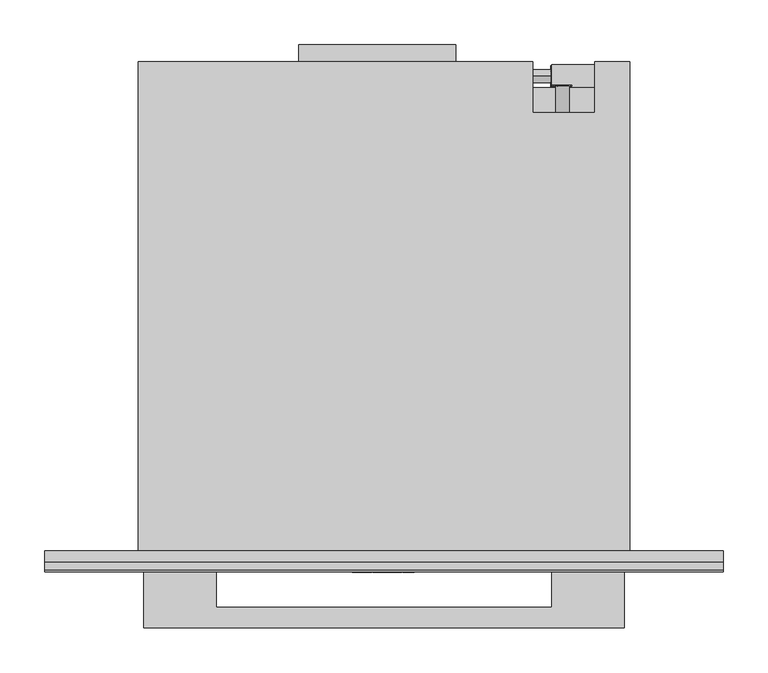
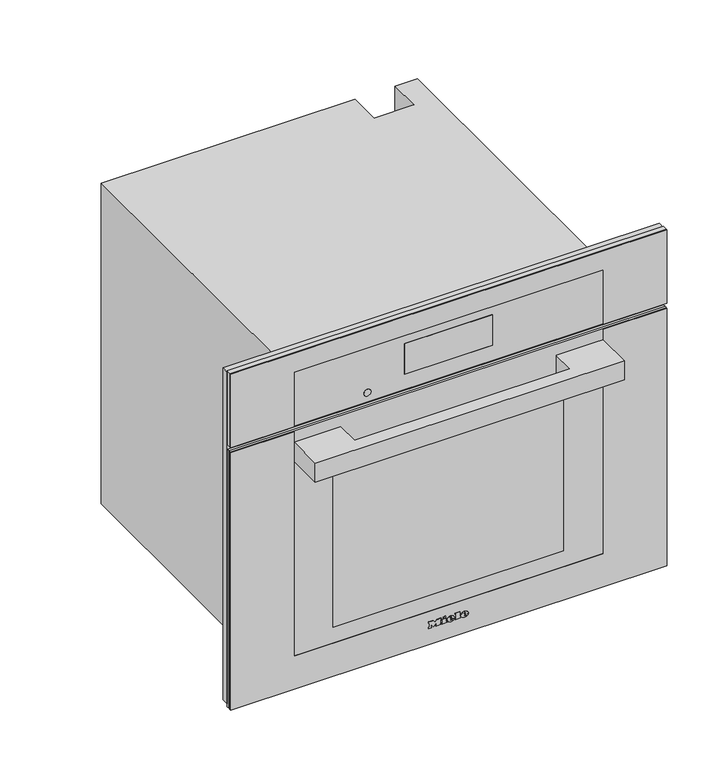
"""IFC4 building model written with IfcOpenShell, lengths in millimetres: proxy geometry, 11875810_USA_DGC7785_EDST-CLST : 23778543_USA_11875810_DGC7785_EDST-CLST."""

from ifc_helpers import new_model, si_unit, point, frame, frame_2d, origin, place, context, project, spatial, polyline, circle_curve, ellipse_curve, trimmed, segment, composite_curve, outline, extrude, faceted_brep, source, transform, mapped, element, save
from ifc_brep_helpers import plane_surface, cylinder_surface, revolved_surface, extruded_surface, advanced_brep


def specialty_equipment_a7eebdfc(model_context):
    return source(origin(), model_context, "Body", "SolidModel", [
        faceted_brep([(378.5, -13.0, 617.0), (-378.5, -13.0, 617.0), (-378.5, -13.0, 9.0), (-272.5, -13.0, 9.0), (-272.5, -13.0, 485.0), (272.5, -13.0, 485.0), (272.5, -13.0, 9.0), (378.5, -13.0, 9.0), (378.5, 0.0, 617.0), (378.5, 0.0, 9.0), (-378.5, 0.0, 9.0), (-378.5, 0.0, 617.0), (231.0, 0.0, 61.0), (231.0, 0.0, 411.0), (-231.0, 0.0, 411.0), (-231.0, 0.0, 61.0), (272.5, -5.0, 9.0), (-272.5, -5.0, 9.0), (-272.5, -5.0, 485.0), (272.5, -5.0, 485.0), (231.0, -5.0, 411.0), (231.0, -5.0, 61.0), (-231.0, -5.0, 61.0), (-231.0, -5.0, 411.0)], [[[0, 1, 2, 3, 4, 5, 6, 7]], [[8, 9, 10, 11], [12, 13, 14, 15]], [[1, 0, 8, 11]], [[2, 1, 11, 10]], [[10, 9, 7, 6, 16, 17, 3, 2]], [[0, 7, 9, 8]], [[18, 19, 5, 4]], [[18, 4, 3, 17]], [[5, 19, 16, 6]], [[19, 18, 17, 16], [20, 21, 22, 23]], [[20, 13, 12, 21]], [[21, 12, 15, 22]], [[22, 15, 14, 23]], [[13, 20, 23, 14]]]),
        extrude(outline(polyline([(-95.0, 565.0), (80.0, 565.0), (80.0, 546.0), (-95.0, 546.0), (-95.0, 565.0)])), frame((0.0, 0.0, 311.0), z_axis=(0.0, 0.0, 1.0), x_axis=(1.0, 0.0, 0.0)), (0.0, 0.0, 1.0), 1.0),
        extrude(outline(polyline([(218.8383288, 522.0), (225.1236409, 522.0), (225.1236409, 511.9492425), (223.8571792, 511.9492425), (223.8571792, 520.7409796), (218.8383288, 520.7409796), (218.8383288, 522.0)])), frame((0.0, 0.0, 272.0), z_axis=(0.0, 0.0, 1.0), x_axis=(1.0, 0.0, 0.0)), (0.0, 0.0, 1.0), 1.0),
        extrude(outline(polyline([(227.0, 522.0), (234.3797826, 522.0), (234.3797826, 511.9503529), (227.15422, 511.9503529), (227.15422, 513.220938), (233.1355215, 513.220938), (233.1355215, 516.1975645), (227.4863097, 516.1975645), (227.4863097, 517.449242), (233.1355215, 517.449242), (233.1355215, 520.7448633), (227.0, 520.7448633), (227.0, 522.0)])), frame((0.0, 0.0, 272.0), z_axis=(0.0, 0.0, 1.0), x_axis=(1.0, 0.0, 0.0)), (0.0, 0.0, 1.0), 1.0),
        extrude(outline(polyline([(519.6429442, 19.9943805), (518.3113439, 19.9943805), (522.3179353, 30.0448542), (523.3959224, 30.0448542), (527.4062166, 20.0), (526.0536081, 20.0), (524.9175759, 23.121223), (520.7810217, 23.121223), (519.6429442, 19.9943805)]), holes=[polyline([(521.2587176, 24.4336815), (524.43988, 24.4336815), (522.8492988, 28.8037675), (521.2587176, 24.4336815)])]), frame((186.0, 0.0, 0.0), z_axis=(1.0, 0.0, 0.0), x_axis=(0.0, 1.0, 0.0)), (0.0, 0.0, 1.0), 1.0),
        extrude(outline(polyline([(530.5321321, 20.0), (527.8018067, 30.0490432), (529.0968223, 30.0490432), (531.1602937, 21.4201336), (533.686646, 30.0556718), (535.5455392, 30.0556718), (538.1024658, 21.4662572), (540.1658975, 30.0556718), (541.4634812, 30.0556718), (538.7128319, 20.0), (537.3799359, 20.0), (534.6350025, 28.8403806), (532.048723, 20.0), (530.5321321, 20.0)])), frame((186.0, 0.0, 0.0), z_axis=(1.0, 0.0, 0.0), x_axis=(0.0, 1.0, 0.0)), (0.0, 0.0, 1.0), 1.0),
        extrude(outline(composite_curve([segment(trimmed(circle_curve(frame_2d((227.0, 517.0)), 7.5), [point((219.5, 517.0))], [point((234.5, 517.0))], False, "CARTESIAN"), True, "CONTINUOUS"), segment(trimmed(circle_curve(frame_2d((227.0, 517.0)), 7.5), [point((234.5, 517.0))], [point((219.5, 517.0))], False, "CARTESIAN"), True, "CONTINUOUS")], self_intersect=False)), frame((0.0, 0.0, 273.0), z_axis=(0.0, 0.0, 1.0), x_axis=(1.0, 0.0, 0.0)), (0.0, 0.0, 1.0), 30.0),
        extrude(outline(polyline([(266.0, 517.0), (187.0, 517.0), (187.0, 543.0), (266.0, 543.0), (266.0, 517.0)])), frame((0.0, 0.0, 303.0), z_axis=(0.0, 0.0, 1.0), x_axis=(1.0, 0.0, 0.0)), (0.0, 0.0, 1.0), 111.0),
        extrude(outline(polyline([(523.0, 196.9217896), (523.0, 198.4267862), (533.0435673, 201.1942402), (533.0435673, 199.9014806), (524.4295103, 197.7797951), (533.0470645, 195.3087512), (533.0470645, 193.4373937), (524.4121052, 190.9191482), (533.0472266, 188.8443938), (533.0472266, 187.5376524), (523.0, 190.2769667), (523.0, 191.6257455), (531.8347238, 194.3884733), (523.0, 196.9217896)])), frame((0.0, 519.0, 0.0), z_axis=(0.0, 1.0, 0.0), x_axis=(0.0, 0.0, 1.0)), (0.0, 0.0, 1.0), 1.0),
        extrude(outline(polyline([(533.0468463, 209.521488), (533.0468463, 208.2566067), (528.129594, 208.2566067), (533.0474898, 203.1074328), (533.0474898, 201.3597489), (528.9313111, 205.6695027), (523.0, 201.1858157), (523.0, 202.7358731), (528.0700777, 206.5685235), (526.4282746, 208.2823622), (523.0, 208.2823622), (523.0, 209.521488), (533.0468463, 209.521488)])), frame((0.0, 519.0, 0.0), z_axis=(0.0, 1.0, 0.0), x_axis=(0.0, 0.0, 1.0)), (0.0, 0.0, 1.0), 1.0),
        extrude(outline(composite_curve([segment(trimmed(circle_curve(frame_2d((528.0, 199.0)), 7.5), [point((528.0, 206.5))], [point((528.0, 191.5))], False, "CARTESIAN"), True, "CONTINUOUS"), segment(trimmed(circle_curve(frame_2d((528.0, 199.0)), 7.5), [point((528.0, 191.5))], [point((528.0, 206.5))], False, "CARTESIAN"), True, "CONTINUOUS")], self_intersect=False)), frame((0.0, 489.0, 0.0), z_axis=(0.0, 1.0, 0.0), x_axis=(0.0, 0.0, 1.0)), (0.0, 0.0, 1.0), 30.0),
        extrude(outline(composite_curve([segment(trimmed(circle_curve(frame_2d((530.0, 25.0)), 7.5), [point((530.0, 17.5))], [point((530.0, 32.5))], False, "CARTESIAN"), True, "CONTINUOUS"), segment(trimmed(circle_curve(frame_2d((530.0, 25.0)), 7.5), [point((530.0, 32.5))], [point((530.0, 17.5))], False, "CARTESIAN"), True, "CONTINUOUS")], self_intersect=False)), frame((166.0, 0.0, 0.0), z_axis=(1.0, 0.0, 0.0), x_axis=(0.0, 1.0, 0.0)), (0.0, 0.0, 1.0), 20.0),
        faceted_brep([(-274.0, 546.0, 0.0), (-274.0, 546.0, 588.0), (166.0, 546.0, 588.0), (166.0, 546.0, 0.0), (235.0, 546.0, 588.0), (274.0, 546.0, 588.0), (274.0, 546.0, 478.0), (235.0, 546.0, 478.0), (274.0, 0.0, 588.0), (-274.0, 0.0, 588.0), (-274.0, 0.0, 0.0), (274.0, 0.0, 0.0), (231.0, 0.0, 411.0), (231.0, 0.0, 61.0), (-231.0, 0.0, 61.0), (-231.0, 0.0, 411.0), (235.0, 489.0, 588.0), (166.0, 489.0, 588.0), (166.0, 517.0, 0.0), (274.0, 517.0, 0.0), (274.0, 517.0, 478.0), (231.0, 411.0, 411.0), (-231.0, 411.0, 411.0), (-231.0, 411.0, 61.0), (231.0, 411.0, 61.0), (235.0, 489.0, 477.0), (166.0, 489.0, 477.0), (166.0, 517.0, 477.0), (235.0, 517.0, 477.0), (235.0, 517.0, 478.0)], [[[0, 1, 2, 3]], [[4, 5, 6, 7]], [[8, 9, 10, 11], [12, 13, 14, 15]], [[9, 8, 5, 4, 16, 17, 2, 1]], [[1, 0, 10, 9]], [[11, 10, 0, 3, 18, 19]], [[8, 11, 19, 20, 6, 5]], [[21, 22, 23, 24]], [[21, 24, 13, 12]], [[24, 23, 14, 13]], [[23, 22, 15, 14]], [[22, 21, 12, 15]], [[16, 25, 26, 17]], [[17, 26, 27, 18, 3, 2]], [[26, 25, 28, 27]], [[25, 16, 4, 7, 29, 28]], [[29, 20, 19, 18, 27, 28]], [[20, 29, 7, 6]]]),
        advanced_brep(
        [(26.2998, -24.3, 36.7018), (26.2998, -24.3, 37.8532), (33.9264, -24.3, 37.8532), (20.6568, -24.3, 37.8532), (23.7918, -24.3, 34.0), (33.7326, -24.3, 36.7018), (30.2898, -24.3, 36.7018), (27.5766, -24.3, 35.425), (26.2998, -24.3, 39.3124), (26.2998, -24.3, 40.555), (28.2492, -24.3, 40.555), (28.2492, -24.3, 39.3124), (26.2998, -23.3, 36.7018), (27.5766, -23.3, 35.425), (30.2898, -23.3, 36.7018), (33.7326, -23.3, 36.7018), (23.7918, -23.3, 34.0), (20.6568, -23.3, 37.8532), (33.9264, -23.3, 37.8532), (26.2998, -23.3, 37.8532), (26.2998, -23.3, 39.3124), (28.2492, -23.3, 39.3124), (28.2492, -23.3, 40.555), (26.2998, -23.3, 40.555)],
        [
            (0, 1),
            (1, 2),
            (2, 3, ellipse_curve(frame((27.2916, -24.3, 37.8532), z_axis=(0.0, -1.0, 0.0), x_axis=(-1.0, 0.0, 0.0)), 6.6348, 5.4834)),
            (3, 4, circle_curve(frame((25.0686622, -24.3, 38.2408), z_axis=(0.0, -1.0, 0.0), x_axis=(0.0, 0.0, -1.0)), 4.4288556)),
            (4, 5, circle_curve(frame((27.1587808, -24.3, 41.2504), z_axis=(0.0, -1.0, 0.0), x_axis=(0.0, 0.0, -1.0)), 7.9940516)),
            (5, 6),
            (6, 7, circle_curve(frame((28.1338588, -24.3, 37.762), z_axis=(0.0, 1.0, 0.0), x_axis=(0.0, 0.0, -1.0)), 2.4025208)),
            (7, 0, circle_curve(frame((27.5766, -24.3, 36.7018), z_axis=(0.0, 1.0, 0.0), x_axis=(0.0, 0.0, -1.0)), 1.2768)),
            (8, 9),
            (9, 10, circle_curve(frame((27.2745, -24.3, 40.555), z_axis=(0.0, 1.0, 0.0), x_axis=(0.0, 0.0, -1.0)), 0.9747)),
            (10, 11),
            (11, 8),
            (12, 13, circle_curve(frame((27.5766, -23.3, 36.7018), z_axis=(0.0, -1.0, 0.0), x_axis=(0.0, 0.0, -1.0)), 1.2768)),
            (13, 14, circle_curve(frame((28.1338588, -23.3, 37.762), z_axis=(0.0, -1.0, 0.0), x_axis=(0.0, 0.0, -1.0)), 2.4025208)),
            (14, 15),
            (15, 16, circle_curve(frame((27.1587808, -23.3, 41.2504), z_axis=(0.0, 1.0, 0.0), x_axis=(0.0, 0.0, -1.0)), 7.9940516)),
            (16, 17, circle_curve(frame((25.0686622, -23.3, 38.2408), z_axis=(0.0, 1.0, 0.0), x_axis=(0.0, 0.0, -1.0)), 4.4288556)),
            (17, 18, ellipse_curve(frame((27.2916, -23.3, 37.8532), z_axis=(0.0, 1.0, 0.0), x_axis=(-1.0, 0.0, 0.0)), 6.6348, 5.4834)),
            (18, 19),
            (19, 12),
            (20, 21),
            (21, 22),
            (22, 23, circle_curve(frame((27.2745, -23.3, 40.555), z_axis=(0.0, -1.0, 0.0), x_axis=(0.0, 0.0, -1.0)), 0.9747)),
            (23, 20),
            (0, 12),
            (19, 1),
            (18, 2),
            (5, 15),
            (14, 6),
            (17, 3),
            (13, 7),
            (16, 4),
            (8, 20),
            (23, 9),
            (22, 10),
            (21, 11),
        ],
        [
            plane_surface(frame((26.2998, -24.3, 37.8532), z_axis=(0.0, -1.0, 0.0), x_axis=(0.0, 0.0, 1.0))),
            plane_surface(frame((26.2998, -23.3, 37.8532), z_axis=(0.0, 1.0, 0.0), x_axis=(0.0, 0.0, -1.0))),
            plane_surface(frame((26.2998, -24.3, 36.7018), z_axis=(1.0, 0.0, 0.0), x_axis=(0.0, 1.0, 0.0))),
            plane_surface(frame((26.2998, -24.3, 37.8532), z_axis=(0.0, 0.0, -1.0), x_axis=(0.0, 1.0, 0.0))),
            plane_surface(frame((33.7326, -24.3, 36.7018), z_axis=(0.0, 0.0, 1.0), x_axis=(0.0, 1.0, 0.0))),
            extruded_surface(trimmed(ellipse_curve(frame((27.2916, -22.3, 37.8532), z_axis=(0.0, -1.0, 0.0), x_axis=(-1.0, 0.0, 0.0)), 6.6348, 5.4834), [point((33.9264, -22.3, 37.8532))], [point((20.6568, -22.3, 37.8532))], True, "CARTESIAN"), (0.0, -1.0, 0.0), 1.0),
            revolved_surface(polyline([(28.1338588, -23.3, 35.3594792), (28.1338588, -24.3, 35.3594792)]), (28.1338588, -23.3, 37.762), (0.0, 1.0, 0.0)),
            revolved_surface(polyline([(27.5766, -23.3, 35.425), (27.5766, -24.3, 35.425)]), (27.5766, -23.3, 36.7018), (0.0, 1.0, 0.0)),
            cylinder_surface(frame((25.0686622, -23.3, 38.2408), z_axis=(0.0, -1.0, 0.0), x_axis=(0.0, 0.0, -1.0)), 4.4288556),
            cylinder_surface(frame((27.1587808, -23.3, 41.2504), z_axis=(0.0, -1.0, 0.0), x_axis=(0.0, 0.0, -1.0)), 7.9940516),
            plane_surface(frame((26.2998, -24.3, 39.3124), z_axis=(1.0, 0.0, 0.0), x_axis=(0.0, 1.0, 0.0))),
            revolved_surface(polyline([(27.2745, -23.3, 39.5803), (27.2745, -24.3, 39.5803)]), (27.2745, -23.3, 40.555), (0.0, 1.0, 0.0)),
            plane_surface(frame((28.2492, -24.3, 40.555), z_axis=(-1.0, 0.0, 0.0), x_axis=(0.0, 1.0, 0.0))),
            plane_surface(frame((28.2492, -24.3, 39.3124), z_axis=(0.0, 0.0, 1.0), x_axis=(0.0, 1.0, 0.0))),
        ],
        [
            (0, [[1, 2, 3, 4, 5, 6, 7, 8], [9, 10, 11, 12]]),
            (1, [[13, 14, 15, 16, 17, 18, 19, 20], [21, 22, 23, 24]]),
            (2, [[-1, 25, -20, 26]]),
            (3, [[-2, -26, -19, 27]]),
            (4, [[-6, 28, -15, 29]]),
            (5, [[-3, -27, -18, 30]]),
            (6, [[-7, -29, -14, 31]]),
            (7, [[-8, -31, -13, -25]]),
            (8, [[-4, -30, -17, 32]]),
            (9, [[-5, -32, -16, -28]]),
            (10, [[-9, 33, -24, 34]]),
            (11, [[-10, -34, -23, 35]]),
            (12, [[-11, -35, -22, 36]]),
            (13, [[-12, -36, -21, -33]]),
        ],
    ),
        advanced_brep(
        [(2.508, -24.3, 36.7018), (2.508, -24.3, 37.8532), (10.1346, -24.3, 37.8532), (-3.135, -24.3, 37.8532), (0.0, -24.3, 34.0), (9.9408, -24.3, 36.7018), (6.498, -24.3, 36.7018), (3.7848, -24.3, 35.425), (2.508, -24.3, 39.3124), (2.508, -24.3, 40.555), (4.4574, -24.3, 40.555), (4.4574, -24.3, 39.3124), (2.508, -23.3, 36.7018), (3.7848, -23.3, 35.425), (6.498, -23.3, 36.7018), (9.9408, -23.3, 36.7018), (0.0, -23.3, 34.0), (-3.135, -23.3, 37.8532), (10.1346, -23.3, 37.8532), (2.508, -23.3, 37.8532), (2.508, -23.3, 39.3124), (4.4574, -23.3, 39.3124), (4.4574, -23.3, 40.555), (2.508, -23.3, 40.555)],
        [
            (0, 1),
            (1, 2),
            (2, 3, ellipse_curve(frame((3.4998, -24.3, 37.8532), z_axis=(0.0, -1.0, 0.0), x_axis=(-1.0, 0.0, 0.0)), 6.6348, 5.4834)),
            (3, 4, circle_curve(frame((1.2768622, -24.3, 38.2408), z_axis=(0.0, -1.0, 0.0), x_axis=(0.0, 0.0, -1.0)), 4.4288556)),
            (4, 5, circle_curve(frame((3.3669808, -24.3, 41.2504), z_axis=(0.0, -1.0, 0.0), x_axis=(0.0, 0.0, -1.0)), 7.9940516)),
            (5, 6),
            (6, 7, circle_curve(frame((4.3420588, -24.3, 37.762), z_axis=(0.0, 1.0, 0.0), x_axis=(0.0, 0.0, -1.0)), 2.4025208)),
            (7, 0, circle_curve(frame((3.7848, -24.3, 36.7018), z_axis=(0.0, 1.0, 0.0), x_axis=(0.0, 0.0, -1.0)), 1.2768)),
            (8, 9),
            (9, 10, circle_curve(frame((3.4827, -24.3, 40.555), z_axis=(0.0, 1.0, 0.0), x_axis=(0.0, 0.0, -1.0)), 0.9747)),
            (10, 11),
            (11, 8),
            (12, 13, circle_curve(frame((3.7848, -23.3, 36.7018), z_axis=(0.0, -1.0, 0.0), x_axis=(0.0, 0.0, -1.0)), 1.2768)),
            (13, 14, circle_curve(frame((4.3420588, -23.3, 37.762), z_axis=(0.0, -1.0, 0.0), x_axis=(0.0, 0.0, -1.0)), 2.4025208)),
            (14, 15),
            (15, 16, circle_curve(frame((3.3669808, -23.3, 41.2504), z_axis=(0.0, 1.0, 0.0), x_axis=(0.0, 0.0, -1.0)), 7.9940516)),
            (16, 17, circle_curve(frame((1.2768622, -23.3, 38.2408), z_axis=(0.0, 1.0, 0.0), x_axis=(0.0, 0.0, -1.0)), 4.4288556)),
            (17, 18, ellipse_curve(frame((3.4998, -23.3, 37.8532), z_axis=(0.0, 1.0, 0.0), x_axis=(-1.0, 0.0, 0.0)), 6.6348, 5.4834)),
            (18, 19),
            (19, 12),
            (20, 21),
            (21, 22),
            (22, 23, circle_curve(frame((3.4827, -23.3, 40.555), z_axis=(0.0, -1.0, 0.0), x_axis=(0.0, 0.0, -1.0)), 0.9747)),
            (23, 20),
            (0, 12),
            (19, 1),
            (18, 2),
            (5, 15),
            (14, 6),
            (17, 3),
            (13, 7),
            (16, 4),
            (8, 20),
            (23, 9),
            (22, 10),
            (21, 11),
        ],
        [
            plane_surface(frame((2.508, -24.3, 37.8532), z_axis=(0.0, -1.0, 0.0), x_axis=(0.0, 0.0, 1.0))),
            plane_surface(frame((2.508, -23.3, 37.8532), z_axis=(0.0, 1.0, 0.0), x_axis=(0.0, 0.0, -1.0))),
            plane_surface(frame((2.508, -24.3, 36.7018), z_axis=(1.0, 0.0, 0.0), x_axis=(0.0, 1.0, 0.0))),
            plane_surface(frame((2.508, -24.3, 37.8532), z_axis=(0.0, 0.0, -1.0), x_axis=(0.0, 1.0, 0.0))),
            plane_surface(frame((9.9408, -24.3, 36.7018), z_axis=(0.0, 0.0, 1.0), x_axis=(0.0, 1.0, 0.0))),
            extruded_surface(trimmed(ellipse_curve(frame((3.4998, -22.3, 37.8532), z_axis=(0.0, -1.0, 0.0), x_axis=(-1.0, 0.0, 0.0)), 6.6348, 5.4834), [point((10.1346, -22.3, 37.8532))], [point((-3.135, -22.3, 37.8532))], True, "CARTESIAN"), (0.0, -1.0, 0.0), 1.0),
            revolved_surface(polyline([(4.3420588, -23.3, 35.3594792), (4.3420588, -24.3, 35.3594792)]), (4.3420588, -23.3, 37.762), (0.0, 1.0, 0.0)),
            revolved_surface(polyline([(3.7848, -23.3, 35.425), (3.7848, -24.3, 35.425)]), (3.7848, -23.3, 36.7018), (0.0, 1.0, 0.0)),
            cylinder_surface(frame((1.2768622, -23.3, 38.2408), z_axis=(0.0, -1.0, 0.0), x_axis=(0.0, 0.0, -1.0)), 4.4288556),
            cylinder_surface(frame((3.3669808, -23.3, 41.2504), z_axis=(0.0, -1.0, 0.0), x_axis=(0.0, 0.0, -1.0)), 7.9940516),
            plane_surface(frame((2.508, -24.3, 39.3124), z_axis=(1.0, 0.0, 0.0), x_axis=(0.0, 1.0, 0.0))),
            revolved_surface(polyline([(3.4827, -23.3, 39.5803), (3.4827, -24.3, 39.5803)]), (3.4827, -23.3, 40.555), (0.0, 1.0, 0.0)),
            plane_surface(frame((4.4574, -24.3, 40.555), z_axis=(-1.0, 0.0, 0.0), x_axis=(0.0, 1.0, 0.0))),
            plane_surface(frame((4.4574, -24.3, 39.3124), z_axis=(0.0, 0.0, 1.0), x_axis=(0.0, 1.0, 0.0))),
        ],
        [
            (0, [[1, 2, 3, 4, 5, 6, 7, 8], [9, 10, 11, 12]]),
            (1, [[13, 14, 15, 16, 17, 18, 19, 20], [21, 22, 23, 24]]),
            (2, [[-1, 25, -20, 26]]),
            (3, [[-2, -26, -19, 27]]),
            (4, [[-6, 28, -15, 29]]),
            (5, [[-3, -27, -18, 30]]),
            (6, [[-7, -29, -14, 31]]),
            (7, [[-8, -31, -13, -25]]),
            (8, [[-4, -30, -17, 32]]),
            (9, [[-5, -32, -16, -28]]),
            (10, [[-9, 33, -24, 34]]),
            (11, [[-10, -34, -23, 35]]),
            (12, [[-11, -35, -22, 36]]),
            (13, [[-12, -36, -21, -33]]),
        ],
    ),
        extrude(outline(polyline([(44.7274, -9.9522), (42.8806, -9.0858), (44.6818, -5.2212), (46.5286, -6.0762), (44.7274, -9.9522)])), frame((0.0, -24.3, 0.0), z_axis=(0.0, 1.0, 0.0), x_axis=(0.0, 0.0, 1.0)), (0.0, 0.0, 1.0), 1.0),
        extrude(outline(polyline([(42.6298, -12.768), (40.5892, -12.768), (40.5892, -11.4114), (35.9152, -11.4114), (35.9152, -12.768), (34.0, -12.768), (34.0, -3.7734), (35.9152, -3.7734), (35.9152, -5.0958), (42.6298, -5.0958), (42.6298, -12.768)])), frame((0.0, -24.3, 0.0), z_axis=(0.0, 1.0, 0.0), x_axis=(0.0, 0.0, 1.0)), (0.0, 0.0, 1.0), 1.0),
        extrude(outline(polyline([(43.5418, 10.773), (43.5418, 12.141), (35.9152, 12.141), (35.9152, 10.773), (34.0, 10.773), (34.0, 20.0184), (35.9152, 20.0184), (35.9152, 18.6162), (45.4, 18.6162), (45.4, 10.773), (43.5418, 10.773)])), frame((0.0, -24.3, 0.0), z_axis=(0.0, 1.0, 0.0), x_axis=(0.0, 0.0, 1.0)), (0.0, 0.0, 1.0), 1.0),
        extrude(outline(polyline([(43.5418, -35.4882), (43.5418, -34.1088), (35.9152, -34.1088), (35.9152, -35.4882), (34.0, -35.4882), (34.0, -30.4722), (35.9152, -30.4722), (35.9152, -31.8402), (40.7429247, -31.8402), (34.0, -26.7444), (40.9402223, -21.6258), (35.9152, -21.6258), (35.9152, -23.028), (34.0, -23.028), (34.0, -13.9308), (35.9152, -13.9308), (35.9152, -15.3786), (43.5418, -15.3786), (43.5418, -13.9308), (45.4, -13.9308), (45.4, -20.8734), (41.125, -24.2022), (45.4, -27.5424), (45.4, -35.4882), (43.5418, -35.4882)])), frame((0.0, -24.3, 0.0), z_axis=(0.0, 1.0, 0.0), x_axis=(0.0, 0.0, 1.0)), (0.0, 0.0, 1.0), 1.0),
        extrude(outline(composite_curve([segment(trimmed(circle_curve(frame_2d((502.0, -140.5745637)), 6.0), [point((502.0, -146.5745637))], [point((502.0, -134.5745637))], False, "CARTESIAN"), True, "CONTINUOUS"), segment(trimmed(circle_curve(frame_2d((502.0, -140.5745637)), 6.0), [point((502.0, -134.5745637))], [point((502.0, -146.5745637))], False, "CARTESIAN"), True, "CONTINUOUS")], self_intersect=False)), frame((0.0, -22.5, 0.0), z_axis=(0.0, 1.0, 0.0), x_axis=(0.0, 0.0, 1.0)), (0.0, 0.0, 1.0), 1.0),
        extrude(outline(polyline([(485.0, -268.5), (585.0, -268.5), (585.0, 268.5), (485.0, 268.5), (485.0, 378.5), (620.0, 378.5), (620.0, -378.5), (485.0, -378.5), (485.0, -268.5)])), frame((0.0, -23.3, 0.0), z_axis=(0.0, 1.0, 0.0), x_axis=(0.0, 0.0, 1.0)), (0.0, 0.0, 1.0), 1.3),
        extrude(outline(polyline([(-76.5, -21.0), (76.5, -21.0), (76.5, -22.0), (-76.5, -22.0), (-76.5, -21.0)])), frame((0.0, 0.0, 513.0), z_axis=(0.0, 0.0, 1.0), x_axis=(1.0, 0.0, 0.0)), (0.0, 0.0, 1.0), 56.0),
        faceted_brep([(378.5, -22.0, 620.0), (-378.5, -22.0, 620.0), (-378.5, -22.0, 485.0), (378.5, -22.0, 485.0), (76.5, -22.0, 569.0), (76.5, -22.0, 513.0), (-76.5, -22.0, 513.0), (-76.5, -22.0, 569.0), (378.5, -13.0, 620.0), (378.5, -13.0, 485.0), (-378.5, -13.0, 485.0), (-378.5, -13.0, 620.0), (76.5, -21.0, 569.0), (-76.5, -21.0, 569.0), (-76.5, -21.0, 513.0), (76.5, -21.0, 513.0)], [[[0, 1, 2, 3], [4, 5, 6, 7]], [[8, 9, 10, 11]], [[1, 0, 8, 11]], [[2, 1, 11, 10]], [[3, 2, 10, 9]], [[0, 3, 9, 8]], [[12, 13, 14, 15]], [[12, 15, 5, 4]], [[15, 14, 6, 5]], [[14, 13, 7, 6]], [[13, 12, 4, 7]]]),
        extrude(outline(polyline([(200.0, -22.0), (-200.0, -22.0), (-200.0, -18.0), (200.0, -18.0), (200.0, -22.0)])), frame((0.0, 0.0, 92.5), z_axis=(0.0, 0.0, 1.0), x_axis=(1.0, 0.0, 0.0)), (0.0, 0.0, 1.0), 300.0),
        extrude(outline(polyline([(476.0, 378.5), (476.0, -378.5), (4.0, -378.5), (4.0, 378.5), (476.0, 378.5)]), holes=[polyline([(392.5, -200.0), (392.5, 200.0), (92.5, 200.0), (92.5, -200.0), (392.5, -200.0)])]), frame((0.0, -22.0, 0.0), z_axis=(0.0, 1.0, 0.0), x_axis=(0.0, 0.0, 1.0)), (0.0, 0.0, 1.0), 4.0),
        extrude(outline(polyline([(-187.0, -22.0), (-187.0, -63.3), (187.0, -63.3), (187.0, -22.0), (268.0, -22.0), (268.0, -86.3), (-268.0, -86.3), (-268.0, -22.0), (-187.0, -22.0)])), frame((0.0, 0.0, 421.0), z_axis=(0.0, 0.0, 1.0), x_axis=(1.0, 0.0, 0.0)), (0.0, 0.0, 1.0), 35.0),
        extrude(outline(polyline([(476.0, -378.5), (4.0, -378.5), (4.0, 378.5), (476.0, 378.5), (476.0, 268.5), (64.0, 268.5), (64.0, -268.5), (476.0, -268.5), (476.0, -378.5)])), frame((0.0, -23.3, 0.0), z_axis=(0.0, 1.0, 0.0), x_axis=(0.0, 0.0, 1.0)), (0.0, 0.0, 1.0), 1.3),
        extrude(outline(polyline([(378.5, -18.0), (-378.5, -18.0), (-378.5, -13.0), (378.5, -13.0), (378.5, -18.0)])), frame((0.0, 0.0, 4.0), z_axis=(0.0, 0.0, 1.0), x_axis=(1.0, 0.0, 0.0)), (0.0, 0.0, 1.0), 472.0),
    ])


if __name__ == "__main__":
    model = new_model("IFC4")
    model_context = context("Model", 3, world=origin())
    ifc_project = project(units=[si_unit("LENGTHUNIT", "METRE", prefix="MILLI")], contexts=[model_context])
    site = spatial("IfcSite", under=ifc_project)
    building = spatial("IfcBuilding", under=site)
    placement = place(None, origin())
    specialty_equipment_shape = specialty_equipment_a7eebdfc(model_context)
    element("IfcBuildingElementProxy", 1, Name="11875810_USA_DGC7785_EDST-CLST : 23778543_USA_11875810_DGC7785_EDST-CLST", ObjectType="11875810_USA_DGC7785_EDST-CLST : 23778543_USA_11875810_DGC7785_EDST-CLST", at=placement, inside=building, context=model_context, shape_type="MappedRepresentation", body=[
        mapped(specialty_equipment_shape, transform((0.0, 0.0, 0.0), x_axis=(1.0, 0.0, 0.0), y_axis=(0.0, 1.0, 0.0), z_axis=(0.0, 0.0, 1.0))),
    ])
    save(model, "model.ifc")
